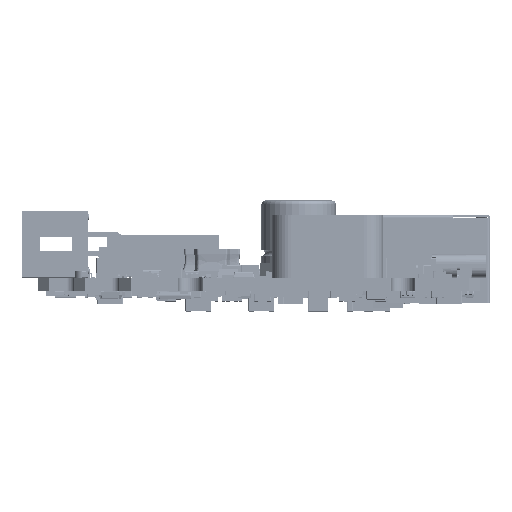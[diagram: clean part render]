
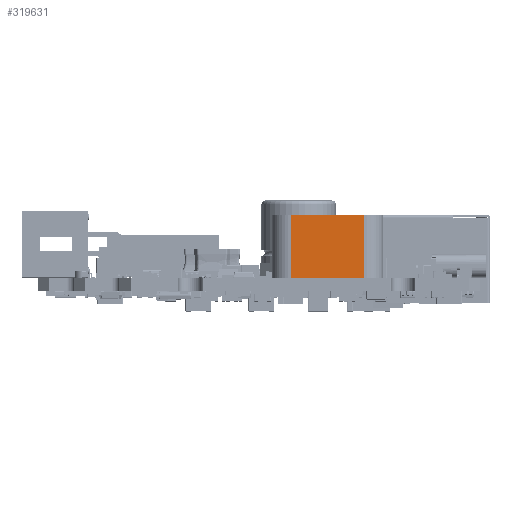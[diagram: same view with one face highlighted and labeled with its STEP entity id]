
A CAD part, left-side view. The second image highlights one B-rep face of the part: STEP entity #319631.
In plain terms, the highlighted planar face has unit normal (-1, 0, 0) as drawn and (0, 0, -1) by its records, which use the part's own axes.
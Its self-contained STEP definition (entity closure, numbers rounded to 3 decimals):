
#319092 = VERTEX_POINT('',#319093);
#319093 = CARTESIAN_POINT('',(-4.9,0.,-7.55));
#319100 = EDGE_CURVE('',#319101,#319092,#319103,.T.);
#319101 = VERTEX_POINT('',#319102);
#319102 = CARTESIAN_POINT('',(4.9,0.,-7.55));
#319103 = LINE('',#319104,#319105);
#319104 = CARTESIAN_POINT('',(7.5,0.,-7.55));
#319105 = VECTOR('',#319106,1.);
#319106 = DIRECTION('',(-1.,-0.,0.));
#319613 = VERTEX_POINT('',#319614);
#319614 = CARTESIAN_POINT('',(-4.9,8.55,-7.55));
#319621 = EDGE_CURVE('',#319613,#319092,#319622,.T.);
#319622 = LINE('',#319623,#319624);
#319623 = CARTESIAN_POINT('',(-4.9,8.55,-7.55));
#319624 = VECTOR('',#319625,1.);
#319625 = DIRECTION('',(0.,-1.,0.));
#319631 = ADVANCED_FACE('',(#319632),#319650,.F.);
#319632 = FACE_BOUND('',#319633,.T.);
#319633 = EDGE_LOOP('',(#319634,#319642,#319643,#319644));
#319634 = ORIENTED_EDGE('',*,*,#319635,.F.);
#319635 = EDGE_CURVE('',#319101,#319636,#319638,.T.);
#319636 = VERTEX_POINT('',#319637);
#319637 = CARTESIAN_POINT('',(4.9,8.55,-7.55));
#319638 = LINE('',#319639,#319640);
#319639 = CARTESIAN_POINT('',(4.9,8.55,-7.55));
#319640 = VECTOR('',#319641,1.);
#319641 = DIRECTION('',(-0.,1.,0.));
#319642 = ORIENTED_EDGE('',*,*,#319100,.T.);
#319643 = ORIENTED_EDGE('',*,*,#319621,.F.);
#319644 = ORIENTED_EDGE('',*,*,#319645,.F.);
#319645 = EDGE_CURVE('',#319636,#319613,#319646,.T.);
#319646 = LINE('',#319647,#319648);
#319647 = CARTESIAN_POINT('',(-7.5,8.55,-7.55));
#319648 = VECTOR('',#319649,1.);
#319649 = DIRECTION('',(-1.,-0.,0.));
#319650 = PLANE('',#319651);
#319651 = AXIS2_PLACEMENT_3D('',#319652,#319653,#319654);
#319652 = CARTESIAN_POINT('',(-7.5,8.55,-7.55));
#319653 = DIRECTION('',(0.,0.,1.));
#319654 = DIRECTION('',(1.,0.,-0.));
